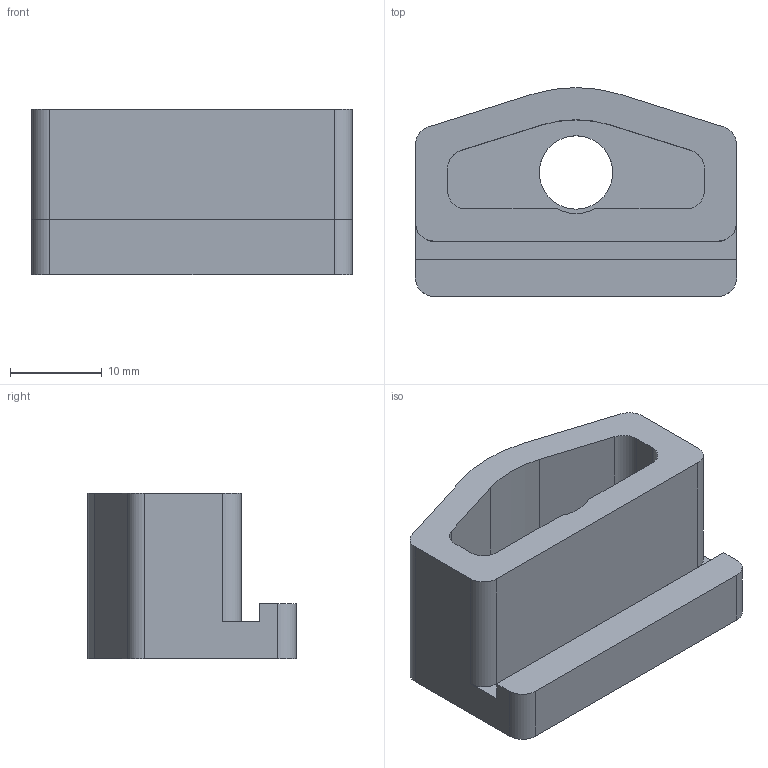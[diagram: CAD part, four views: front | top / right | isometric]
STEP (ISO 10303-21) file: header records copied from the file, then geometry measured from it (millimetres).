
FILE_DESCRIPTION(/* description */ ('BEAM BRACKET'),/* implementation_level */ '2;1');
FILE_NAME(/* name */ '\\carryline.intra\privat\users\mathias\Desktop\Tillfälliga filer\100-4010.stp',/* time_stamp */ '2018-11-20T10:50:48+01:00',/* author */ ('PL'),/* organization */ (''),/* preprocessor_version */ 'ST-DEVELOPER v17',/* originating_system */ 'Autodesk Inventor 2018',/* authorisation */ '');
FILE_SCHEMA (('AUTOMOTIVE_DESIGN { 1 0 10303 214 3 1 1 }'));
Length unit declared in the file: millimetre
Products named in the file (1): 100-4010
Bounding box: 35 x 22.73 x 18 mm (x, y, z)
Volume: 6741.2 mm3; surface area: 4284.5 mm2
Topology: 1 solids, 1 shells, 34 faces, 90 edges, 60 vertices
Faces by surface type: plane 19, cylinder 15
Full cylindrical faces by diameter (mm): 8 x1, 16 x1
Entity records: 1107 total; most frequent: DIRECTION 190, CARTESIAN_POINT 185, ORIENTED_EDGE 180, EDGE_CURVE 90, AXIS2_PLACEMENT_3D 65, LINE 60, VECTOR 60, VERTEX_POINT 60
